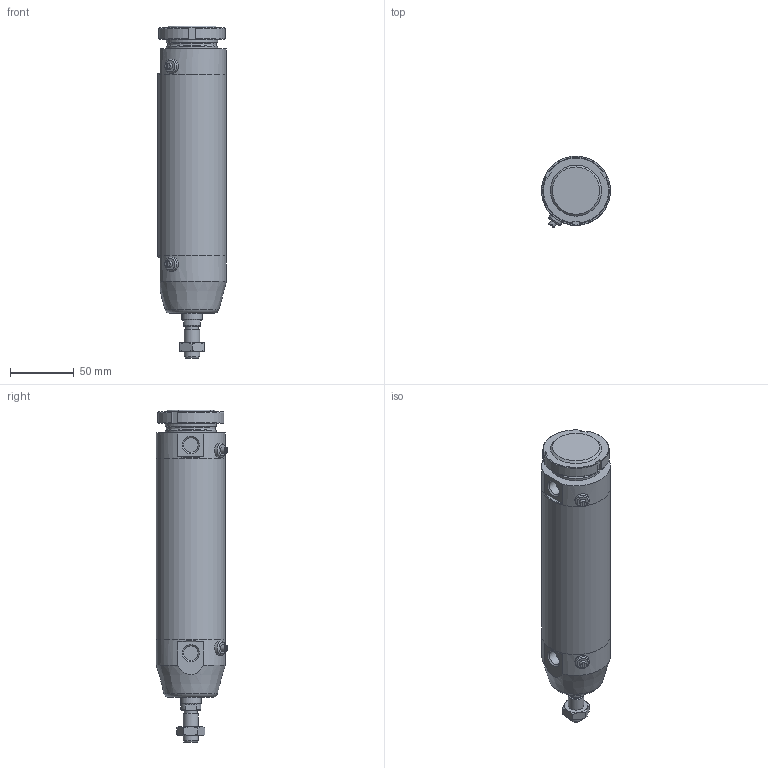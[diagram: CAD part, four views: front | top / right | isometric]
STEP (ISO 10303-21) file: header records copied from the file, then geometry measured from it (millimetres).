
FILE_DESCRIPTION(/* description */ (''),/* implementation_level */ '2;1');
FILE_NAME(/* name */ 'I:\Area Tecnica\Documenti\A-Manieri\_Inventor\12X\12X#B_###_####_#_#\12XBB_050_0100_#_#.stp',/* time_stamp */ '2015-04-28T14:28:45+02:00',/* author */ ('maniean1'),/* organization */ ('Pneumax S.p.A.'),/* preprocessor_version */ 'ST-DEVELOPER v15.2',/* originating_system */ 'Autodesk Inventor 2014',/* authorisation */ '');
FILE_SCHEMA (('AUTOMOTIVE_DESIGN { 1 0 10303 214 3 1 1 }'));
Length unit declared in the file: millimetre
Products named in the file (7): C1250_619-0100; 12X50_614; S12X50_0100; 12X_50_11; 12X50_621; G12X_050_05; 12XBB_050_0100_#_#
Bounding box: 54 x 55.88 x 260 mm (x, y, z)
Volume: 320327.4 mm3; surface area: 95081.5 mm2
Topology: 6 solids, 6 shells, 98 faces, 217 edges, 140 vertices
Faces by surface type: plane 52, cylinder 24, cone 19, torus 3
Full cylindrical faces by diameter (mm): 5 x2, 10.2 x1, 11 x2, 11.4 x2, 12 x2, 14 x1, 15.6 x1, 16 x1, 38.2 x1, 40 x3, 50 x2, 54 x3
Entity records: 2646 total; most frequent: CARTESIAN_POINT 539, DIRECTION 439, ORIENTED_EDGE 346, AXIS2_PLACEMENT_3D 186, EDGE_CURVE 173, EDGE_LOOP 150, VERTEX_POINT 131, ADVANCED_FACE 98
